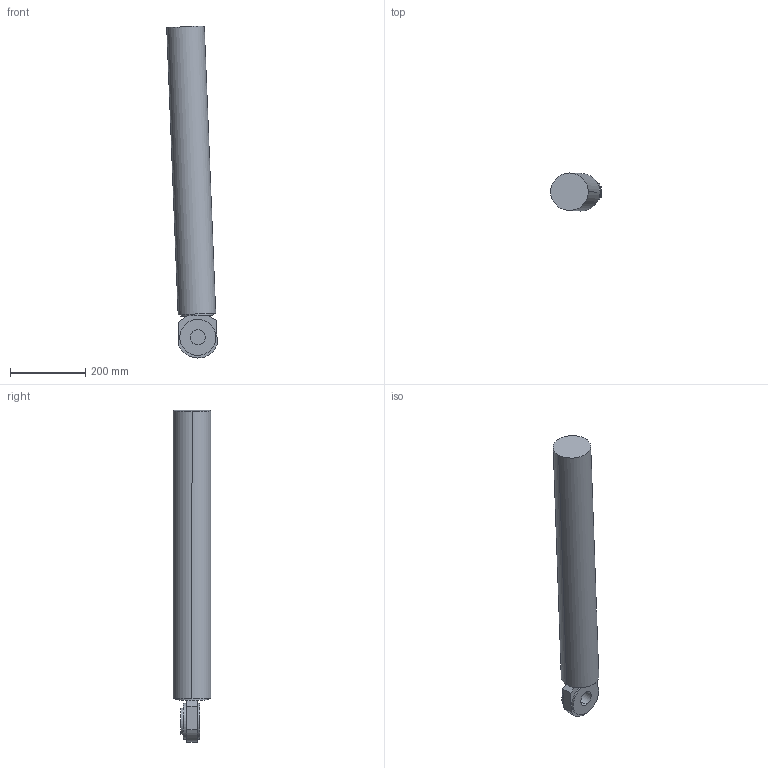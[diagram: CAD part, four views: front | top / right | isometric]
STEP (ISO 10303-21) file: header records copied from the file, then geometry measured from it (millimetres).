
FILE_DESCRIPTION (( 'STEP AP214' ), '1' );
FILE_NAME ('IRB760_445-318_Balance b_CAD_rev00.STEP', '2020-01-31T12:30:07', ( '' ), ( '' ), 'SwSTEP 2.0', 'SolidWorks 2018', '' );
FILE_SCHEMA (( 'AUTOMOTIVE_DESIGN' ));
Length unit declared in the file: millimetre
Products named in the file (2): IRB760_445-318_Balance b_CAD_rev00
Bounding box: 134.59 x 100 x 883.33 mm (x, y, z)
Volume: 6403077.6 mm3; surface area: 295744.1 mm2
Topology: 1 solids, 1 shells, 27 faces, 57 edges, 38 vertices
Faces by surface type: cylinder 14, plane 13
Entity records: 1085 total; most frequent: DIRECTION 143, CARTESIAN_POINT 124, ORIENTED_EDGE 114, EDGE_CURVE 57, AXIS2_PLACEMENT_3D 57, VERTEX_POINT 38, EDGE_LOOP 33, UNCERTAINTY_MEASURE_WITH_UNIT 30
